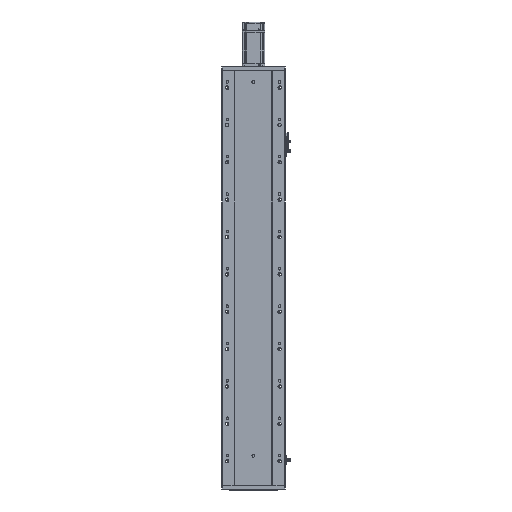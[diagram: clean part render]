
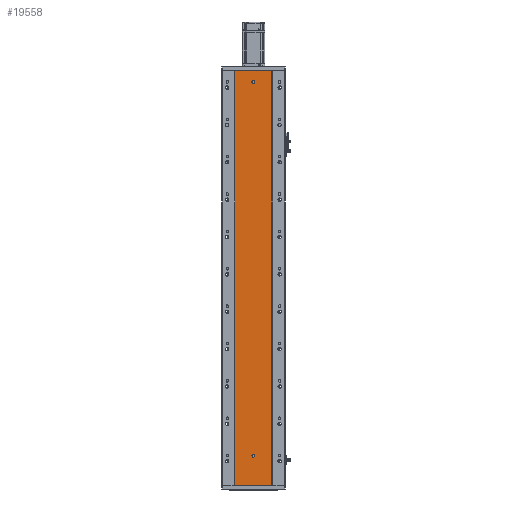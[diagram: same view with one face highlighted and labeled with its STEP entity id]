
A CAD part, front view. The second image highlights one B-rep face of the part: STEP entity #19558.
In plain terms, the highlighted planar face has unit normal (0, -1, 0).
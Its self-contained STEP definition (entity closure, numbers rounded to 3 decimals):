
#2590 = CIRCLE ( 'NONE', #4778, 4. ) ;
#2693 = VECTOR ( 'NONE', #63560, 1000. ) ;
#2711 = LINE ( 'NONE', #63532, #2693 ) ;
#2790 = VECTOR ( 'NONE', #63602, 1000. ) ;
#2813 = CIRCLE ( 'NONE', #4800, 4. ) ;
#2869 = LINE ( 'NONE', #63598, #2790 ) ;
#4778 = AXIS2_PLACEMENT_3D ( 'NONE', #63418, #63419, #63439 ) ;
#4800 = AXIS2_PLACEMENT_3D ( 'NONE', #63617, #63618, #63593 ) ;
#7558 = FACE_BOUND ( 'NONE', #21108, .T. ) ;
#7564 = FACE_OUTER_BOUND ( 'NONE', #21165, .T. ) ;
#7589 = FACE_BOUND ( 'NONE', #21092, .T. ) ;
#17578 = ORIENTED_EDGE ( 'NONE', *, *, #44676, .F. ) ;
#17592 = ORIENTED_EDGE ( 'NONE', *, *, #44665, .F. ) ;
#17656 = ORIENTED_EDGE ( 'NONE', *, *, #40982, .F. ) ;
#17698 = ORIENTED_EDGE ( 'NONE', *, *, #44749, .F. ) ;
#17720 = ORIENTED_EDGE ( 'NONE', *, *, #44720, .T. ) ;
#17750 = ORIENTED_EDGE ( 'NONE', *, *, #44746, .F. ) ;
#17754 = ORIENTED_EDGE ( 'NONE', *, *, #44696, .T. ) ;
#17756 = ORIENTED_EDGE ( 'NONE', *, *, #40978, .F. ) ;
#19558 = ADVANCED_FACE ( 'NONE', ( #7558, #7589, #7564 ), #65533, .F. ) ;
#21092 = EDGE_LOOP ( 'NONE', ( #17698, #17656 ) ) ;
#21108 = EDGE_LOOP ( 'NONE', ( #17578, #17756 ) ) ;
#21165 = EDGE_LOOP ( 'NONE', ( #17720, #17592, #17750, #17754 ) ) ;
#30725 = B_SPLINE_CURVE_WITH_KNOTS ( 'NONE', 3,
 ( #63447, #63444, #63431, #63422 ),
 .UNSPECIFIED., .F., .F.,
 ( 4, 4 ),
 ( 0., 1. ),
 .UNSPECIFIED. ) ;
#30745 = B_SPLINE_CURVE_WITH_KNOTS ( 'NONE', 3,
 ( #63491, #63501, #63463, #63493 ),
 .UNSPECIFIED., .F., .F.,
 ( 4, 4 ),
 ( 0., 1. ),
 .UNSPECIFIED. ) ;
#32600 = DIRECTION ( 'NONE',  ( 0., 0., -1. ) ) ;
#32626 = DIRECTION ( 'NONE',  ( 0., -1., 0. ) ) ;
#32634 = DIRECTION ( 'NONE',  ( 0., 0., -1. ) ) ;
#32662 = DIRECTION ( 'NONE',  ( 0., -1., 0. ) ) ;
#32667 = CARTESIAN_POINT ( 'NONE',  ( 136.47, 79.476, 80. ) ) ;
#32705 = CARTESIAN_POINT ( 'NONE',  ( 136.47, 79.476, 1080. ) ) ;
#39697 = CIRCLE ( 'NONE', #52506, 4. ) ;
#39742 = CIRCLE ( 'NONE', #52494, 4. ) ;
#40978 = EDGE_CURVE ( 'NONE', #45310, #45335, #39742, .T. ) ;
#40982 = EDGE_CURVE ( 'NONE', #45367, #45312, #39697, .T. ) ;
#44665 = EDGE_CURVE ( 'NONE', #45325, #45347, #30725, .T. ) ;
#44676 = EDGE_CURVE ( 'NONE', #45335, #45310, #2590, .T. ) ;
#44696 = EDGE_CURVE ( 'NONE', #45294, #45322, #30745, .T. ) ;
#44720 = EDGE_CURVE ( 'NONE', #45322, #45347, #2711, .T. ) ;
#44746 = EDGE_CURVE ( 'NONE', #45294, #45325, #2869, .T. ) ;
#44749 = EDGE_CURVE ( 'NONE', #45312, #45367, #2813, .T. ) ;
#45294 = VERTEX_POINT ( 'NONE', #50395 ) ;
#45310 = VERTEX_POINT ( 'NONE', #50361 ) ;
#45312 = VERTEX_POINT ( 'NONE', #50368 ) ;
#45322 = VERTEX_POINT ( 'NONE', #50417 ) ;
#45325 = VERTEX_POINT ( 'NONE', #50432 ) ;
#45335 = VERTEX_POINT ( 'NONE', #50419 ) ;
#45347 = VERTEX_POINT ( 'NONE', #50481 ) ;
#45367 = VERTEX_POINT ( 'NONE', #50438 ) ;
#50361 = CARTESIAN_POINT ( 'NONE',  ( 136.47, 79.476, 1084. ) ) ;
#50368 = CARTESIAN_POINT ( 'NONE',  ( 136.47, 79.476, 76. ) ) ;
#50395 = CARTESIAN_POINT ( 'NONE',  ( 86.97, 79.476, 1110. ) ) ;
#50417 = CARTESIAN_POINT ( 'NONE',  ( 86.97, 79.476, 0. ) ) ;
#50419 = CARTESIAN_POINT ( 'NONE',  ( 136.47, 79.476, 1076. ) ) ;
#50432 = CARTESIAN_POINT ( 'NONE',  ( 185.97, 79.476, 1110. ) ) ;
#50438 = CARTESIAN_POINT ( 'NONE',  ( 136.47, 79.476, 84. ) ) ;
#50481 = CARTESIAN_POINT ( 'NONE',  ( 185.97, 79.476, 0. ) ) ;
#52494 = AXIS2_PLACEMENT_3D ( 'NONE', #32705, #32662, #32634 ) ;
#52506 = AXIS2_PLACEMENT_3D ( 'NONE', #32667, #32626, #32600 ) ;
#54976 = AXIS2_PLACEMENT_3D ( 'NONE', #65559, #65537, #65558 ) ;
#63418 = CARTESIAN_POINT ( 'NONE',  ( 136.47, 79.476, 1080. ) ) ;
#63419 = DIRECTION ( 'NONE',  ( 0., -1., 0. ) ) ;
#63422 = CARTESIAN_POINT ( 'NONE',  ( 185.97, 79.476, 0. ) ) ;
#63431 = CARTESIAN_POINT ( 'NONE',  ( 185.97, 79.476, 370. ) ) ;
#63439 = DIRECTION ( 'NONE',  ( 0., 0., -1. ) ) ;
#63444 = CARTESIAN_POINT ( 'NONE',  ( 185.97, 79.476, 740. ) ) ;
#63447 = CARTESIAN_POINT ( 'NONE',  ( 185.97, 79.476, 1110. ) ) ;
#63463 = CARTESIAN_POINT ( 'NONE',  ( 86.97, 79.476, 370. ) ) ;
#63491 = CARTESIAN_POINT ( 'NONE',  ( 86.97, 79.476, 1110. ) ) ;
#63493 = CARTESIAN_POINT ( 'NONE',  ( 86.97, 79.476, 0. ) ) ;
#63501 = CARTESIAN_POINT ( 'NONE',  ( 86.97, 79.476, 740. ) ) ;
#63532 = CARTESIAN_POINT ( 'NONE',  ( 0., 79.476, 0. ) ) ;
#63560 = DIRECTION ( 'NONE',  ( 1., 0., 0. ) ) ;
#63593 = DIRECTION ( 'NONE',  ( 0., 0., -1. ) ) ;
#63598 = CARTESIAN_POINT ( 'NONE',  ( 0., 79.476, 1110. ) ) ;
#63602 = DIRECTION ( 'NONE',  ( 1., 0., 0. ) ) ;
#63617 = CARTESIAN_POINT ( 'NONE',  ( 136.47, 79.476, 80. ) ) ;
#63618 = DIRECTION ( 'NONE',  ( 0., -1., 0. ) ) ;
#65533 = PLANE ( 'NONE',  #54976 ) ;
#65537 = DIRECTION ( 'NONE',  ( 0., 1., 0. ) ) ;
#65558 = DIRECTION ( 'NONE',  ( 0., 0., 1. ) ) ;
#65559 = CARTESIAN_POINT ( 'NONE',  ( 0., 79.476, 1110. ) ) ;
